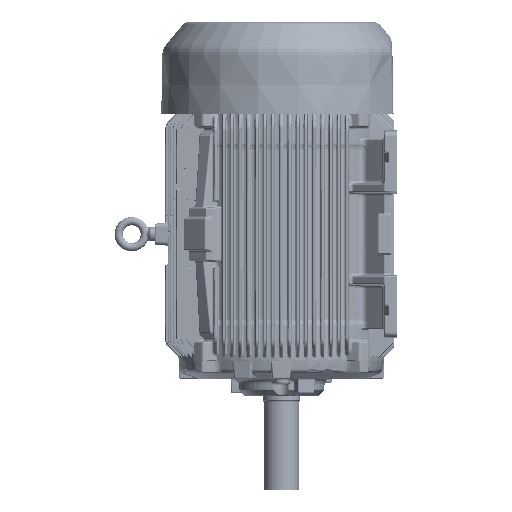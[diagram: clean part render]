
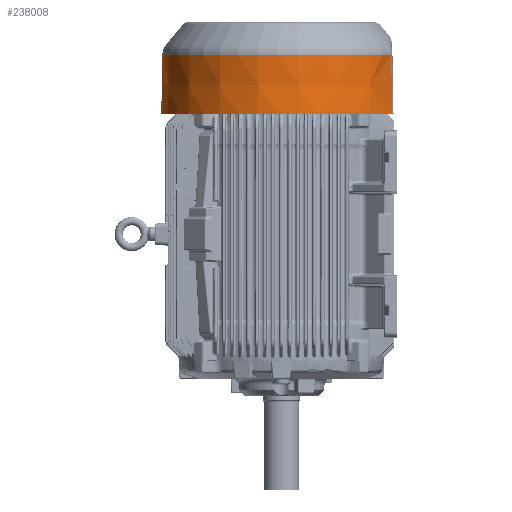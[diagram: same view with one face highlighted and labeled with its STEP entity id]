
A CAD part, left-side view. The second image highlights one B-rep face of the part: STEP entity #238008.
In plain terms, the highlighted conical face has half-angle 1 degrees and reference radius 288.053 mm.
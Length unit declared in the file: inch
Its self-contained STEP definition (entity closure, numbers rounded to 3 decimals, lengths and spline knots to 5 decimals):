
#231059=CARTESIAN_POINT('',(-4.4053,-10.50316,0.));
#231071=CARTESIAN_POINT('',(4.4053,-10.50316,0.));
#231077=CARTESIAN_POINT('',(-4.38861,-10.40404,
-5.60515));
#231078=CARTESIAN_POINT('',(-4.38989,-10.41162,
-5.17622));
#231079=CARTESIAN_POINT('',(-4.3925,-10.42706,
-4.30305));
#231080=CARTESIAN_POINT('',(-4.39649,-10.45079,
-2.96156));
#231081=CARTESIAN_POINT('',(-4.4007,-10.47582,
-1.54612));
#231082=CARTESIAN_POINT('',(-4.40373,-10.49385,
-0.52655));
#231083=CARTESIAN_POINT('',(-4.4053,-10.50316,0.));
#231085=CARTESIAN_POINT('',(-4.38861,-10.40404,
-5.60515));
#231086=CARTESIAN_POINT('',(-4.38884,-10.40394,
-5.60527));
#231087=CARTESIAN_POINT('',(-4.38935,-10.40372,
-5.60548));
#231088=CARTESIAN_POINT('',(-4.39028,-10.40332,
-5.6058));
#231089=CARTESIAN_POINT('',(-4.39142,-10.40283,
-5.60605));
#231090=CARTESIAN_POINT('',(-4.39279,-10.40225,
-5.60622));
#231091=CARTESIAN_POINT('',(-4.3939,-10.40178,
-5.60627));
#231092=CARTESIAN_POINT('',(-4.3945,-10.40153,
-5.60627));
#231094=CARTESIAN_POINT('',(0.,0.,-5.60627));
#231095=DIRECTION('',(0.,0.,-1.));
#231096=DIRECTION('',(-0.389,-0.921,0.));
#231097=AXIS2_PLACEMENT_3D('',#231094,#231095,#231096);
#231099=CARTESIAN_POINT('',(4.38861,-10.40404,
-5.60515));
#231100=CARTESIAN_POINT('',(4.38883,-10.40394,
-5.60528));
#231101=CARTESIAN_POINT('',(4.38935,-10.40372,
-5.60549));
#231102=CARTESIAN_POINT('',(4.39028,-10.40332,
-5.60581));
#231103=CARTESIAN_POINT('',(4.39143,-10.40283,
-5.60606));
#231104=CARTESIAN_POINT('',(4.39278,-10.40226,
-5.60623));
#231105=CARTESIAN_POINT('',(4.39395,-10.40176,
-5.60627));
#231106=CARTESIAN_POINT('',(4.39444,-10.40156,
-5.60627));
#231108=CARTESIAN_POINT('',(4.4053,-10.50316,0.));
#231109=CARTESIAN_POINT('',(4.40402,-10.49554,
-0.43077));
#231110=CARTESIAN_POINT('',(4.40142,-10.48005,
-1.30686));
#231111=CARTESIAN_POINT('',(4.39742,-10.45633,
-2.64795));
#231112=CARTESIAN_POINT('',(4.3932,-10.43125,
-4.0661));
#231113=CARTESIAN_POINT('',(4.39017,-10.4133,
-5.08152));
#231114=CARTESIAN_POINT('',(4.38861,-10.40404,
-5.60515));
#231116=CARTESIAN_POINT('',(0.,0.,0.));
#231117=DIRECTION('',(0.,0.,1.));
#231118=DIRECTION('',(0.387,-0.922,0.));
#231119=AXIS2_PLACEMENT_3D('',#231116,#231117,#231118);
#235813=VERTEX_POINT('',#231059);
#235816=VERTEX_POINT('',#231077);
#235823=VERTEX_POINT('',#231071);
#235824=VERTEX_POINT('',#231114);
#235825=CARTESIAN_POINT('',(-4.3945,-10.40153,
-5.60627));
#235826=CARTESIAN_POINT('',(4.39429,-10.40162,
-5.60627));
#235827=VERTEX_POINT('',#235825);
#235828=VERTEX_POINT('',#235826);
#237993=CARTESIAN_POINT('',(0.,0.,-2.80313));
#237994=DIRECTION('',(0.,0.,1.));
#237995=DIRECTION('',(0.,1.,0.));
#237996=AXIS2_PLACEMENT_3D('',#237993,#237994,#237995);
#237997=CONICAL_SURFACE('',#237996,11.34067,1.);
#237998=ORIENTED_EDGE('',*,*,#237974,.F.);
#237999=ORIENTED_EDGE('',*,*,#237838,.T.);
#238000=ORIENTED_EDGE('',*,*,#237856,.T.);
#238002=ORIENTED_EDGE('',*,*,#238001,.F.);
#238004=ORIENTED_EDGE('',*,*,#238003,.F.);
#238005=ORIENTED_EDGE('',*,*,#237985,.T.);
#238006=EDGE_LOOP('',(#237998,#237999,#238000,#238002,#238004,#238005));
#238007=FACE_OUTER_BOUND('',#238006,.F.);
#238008=ADVANCED_FACE('',(#238007),#237997,.T.);
#231084=B_SPLINE_CURVE_WITH_KNOTS('',3,(#231077,#231078,#231079,#231080,#231081,
#231082,#231083),.UNSPECIFIED.,.F.,.F.,(4,1,1,1,4),(0.,0.25,0.5,0.75,
1.),.UNSPECIFIED.);
#231093=B_SPLINE_CURVE_WITH_KNOTS('',3,(#231085,#231086,#231087,#231088,#231089,
#231090,#231091,#231092),.UNSPECIFIED.,.F.,.F.,(4,1,1,1,1,4),(0.,0.2,0.4,
0.6,0.8,1.),.UNSPECIFIED.);
#231098=CIRCLE('',#231097,11.29174);
#231107=B_SPLINE_CURVE_WITH_KNOTS('',3,(#231099,#231100,#231101,#231102,#231103,
#231104,#231105,#231106),.UNSPECIFIED.,.F.,.F.,(4,1,1,1,1,4),(0.,0.2,0.4,
0.6,0.8,1.),.UNSPECIFIED.);
#231115=B_SPLINE_CURVE_WITH_KNOTS('',3,(#231108,#231109,#231110,#231111,#231112,
#231113,#231114),.UNSPECIFIED.,.F.,.F.,(4,1,1,1,4),(0.,0.25,0.5,0.75,
1.),.UNSPECIFIED.);
#231120=CIRCLE('',#231119,11.3896);
#237838=EDGE_CURVE('',#235816,#235827,#231093,.T.);
#237856=EDGE_CURVE('',#235827,#235828,#231098,.T.);
#237974=EDGE_CURVE('',#235816,#235813,#231084,.T.);
#237985=EDGE_CURVE('',#235823,#235813,#231120,.T.);
#238001=EDGE_CURVE('',#235824,#235828,#231107,.T.);
#238003=EDGE_CURVE('',#235823,#235824,#231115,.T.);
